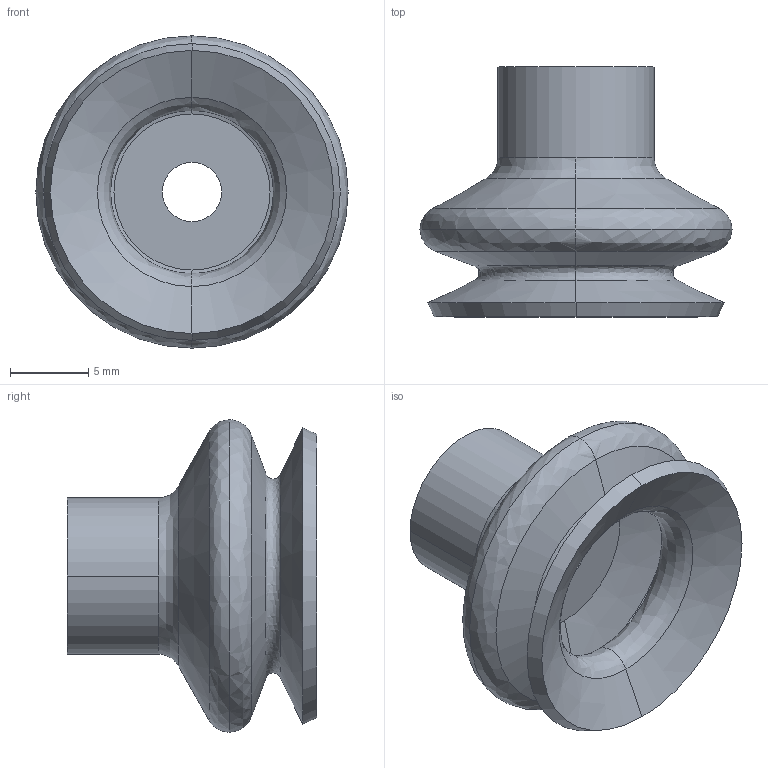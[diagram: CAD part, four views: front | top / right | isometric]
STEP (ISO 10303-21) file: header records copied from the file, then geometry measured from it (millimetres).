
FILE_DESCRIPTION (( 'STEP AP214' ), '1' );
FILE_NAME ('VS2-SA20.STEP', '2019-11-13T08:08:45', ( '微软用户' ), ( '微软中国' ), 'SwSTEP 2.0', 'SolidWorks 2016', '' );
FILE_SCHEMA (( 'AUTOMOTIVE_DESIGN' ));
Length unit declared in the file: millimetre
Products named in the file (1): VS2-SA20
Bounding box: 20 x 16 x 20 mm (x, y, z)
Volume: 1402.8 mm3; surface area: 1910 mm2
Topology: 1 solids, 1 shells, 34 faces, 70 edges, 38 vertices
Faces by surface type: cone 14, bspline 14, cylinder 4, plane 2
Entity records: 1076 total; most frequent: CARTESIAN_POINT 395, ORIENTED_EDGE 140, DIRECTION 136, EDGE_CURVE 70, AXIS2_PLACEMENT_3D 59, VERTEX_POINT 38, CIRCLE 38, EDGE_LOOP 36
